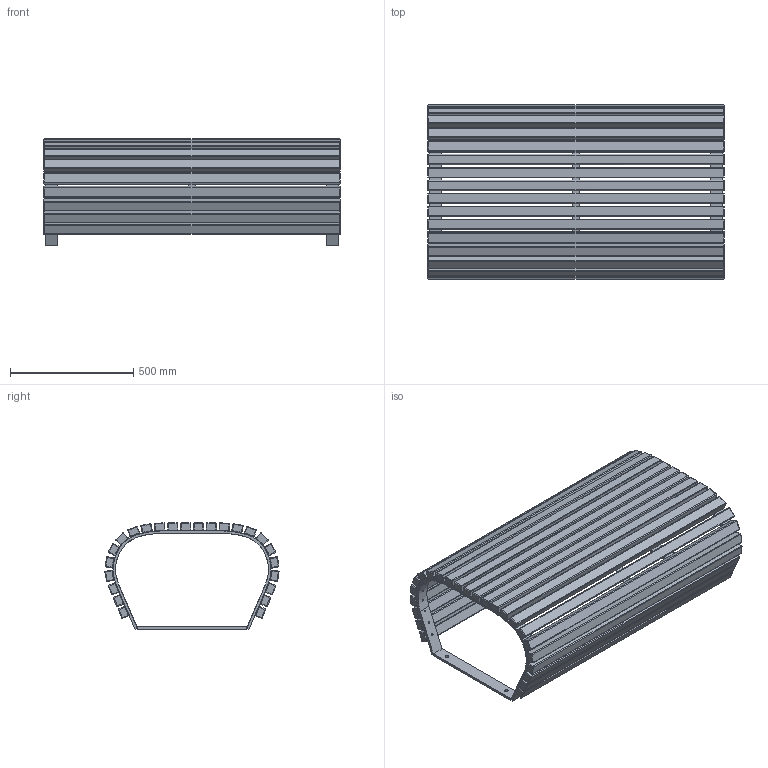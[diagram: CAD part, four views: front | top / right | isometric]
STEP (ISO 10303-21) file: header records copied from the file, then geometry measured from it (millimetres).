
FILE_DESCRIPTION(/* description */ (''),/* implementation_level */ '2;1');
FILE_NAME(/* name */ 'ENV02-E2_UAP_ENVIRON_Bench_3D',/* time_stamp */ '2018-01-23T21:08:06-05:00',/* author */ (''),/* organization */ (''),/* preprocessor_version */ 'ST-DEVELOPER v15',/* originating_system */ '',/* authorisation */ '');
FILE_SCHEMA (('AUTOMOTIVE_DESIGN'));
Length unit declared in the file: millimetre
Products named in the file (1): Document
Bounding box: 1200 x 704.94 x 430 mm (x, y, z)
Volume: 40304034.5 mm3; surface area: 4690215.7 mm2
Topology: 29 solids, 29 shells, 824 faces, 1878 edges, 932 vertices
Faces by surface type: bspline 682, plane 142
Entity records: 31146 total; most frequent: CARTESIAN_POINT 20669, ORIENTED_EDGE 3396, EDGE_CURVE 1698, EDGE_LOOP 976, VERTEX_POINT 932, ADVANCED_FACE 824, FACE_OUTER_BOUND 824, B_SPLINE_CURVE_WITH_KNOTS 809
